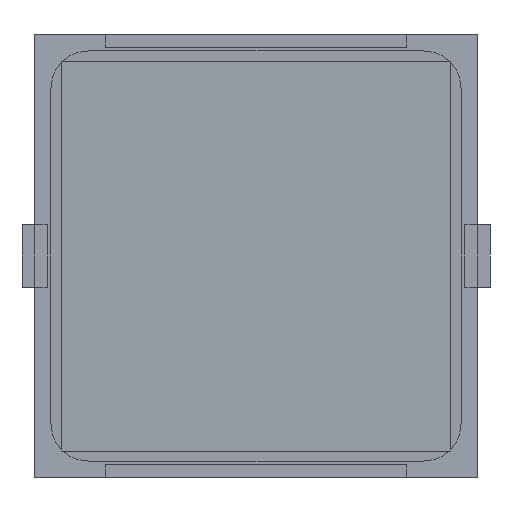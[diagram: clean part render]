
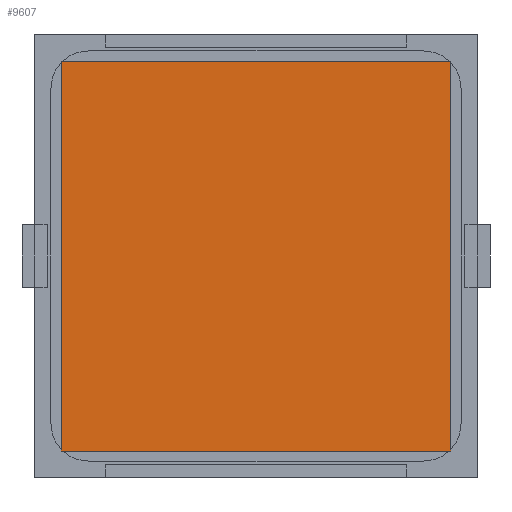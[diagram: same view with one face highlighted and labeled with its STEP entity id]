
A CAD part, front view. The second image highlights one B-rep face of the part: STEP entity #9607.
In plain terms, the highlighted planar face has unit normal (0, -1, 0).
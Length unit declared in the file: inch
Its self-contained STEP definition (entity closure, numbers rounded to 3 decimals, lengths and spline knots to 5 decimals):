
#228 = DIRECTION ( 'NONE',  ( 0., 0., 1. ) ) ;
#1280 = VECTOR ( 'NONE', #228, 39.37008 ) ;
#1312 = LINE ( 'NONE', #9830, #1280 ) ;
#1913 = EDGE_CURVE ( 'NONE', #5322, #5244, #4423, .T. ) ;
#2150 = DIRECTION ( 'NONE',  ( 0., 0., -1. ) ) ;
#2782 = EDGE_CURVE ( 'NONE', #7225, #5322, #10081, .T. ) ;
#2868 = PLANE ( 'NONE',  #4503 ) ;
#2983 = ORIENTED_EDGE ( 'NONE', *, *, #2782, .F. ) ;
#4121 = DIRECTION ( 'NONE',  ( 0., 0., 1. ) ) ;
#4423 = LINE ( 'NONE', #13833, #11424 ) ;
#4503 = AXIS2_PLACEMENT_3D ( 'NONE', #12402, #6026, #4121 ) ;
#4952 = DIRECTION ( 'NONE',  ( 1., 0., 0. ) ) ;
#5244 = VERTEX_POINT ( 'NONE', #12345 ) ;
#5322 = VERTEX_POINT ( 'NONE', #6469 ) ;
#6026 = DIRECTION ( 'NONE',  ( 0., 1., 0. ) ) ;
#6469 = CARTESIAN_POINT ( 'NONE',  ( 0.61024, -0.005, 0.61024 ) ) ;
#7111 = VERTEX_POINT ( 'NONE', #7727 ) ;
#7225 = VERTEX_POINT ( 'NONE', #7790 ) ;
#7285 = DIRECTION ( 'NONE',  ( -1., 0., 0. ) ) ;
#7727 = CARTESIAN_POINT ( 'NONE',  ( -0.61024, -0.005, -0.61024 ) ) ;
#7790 = CARTESIAN_POINT ( 'NONE',  ( -0.61024, -0.005, 0.61024 ) ) ;
#8095 = CARTESIAN_POINT ( 'NONE',  ( -0.61024, -0.005, 0.61024 ) ) ;
#8355 = VECTOR ( 'NONE', #7285, 39.37008 ) ;
#8357 = ORIENTED_EDGE ( 'NONE', *, *, #1913, .F. ) ;
#8366 = EDGE_CURVE ( 'NONE', #5244, #7111, #13714, .T. ) ;
#9346 = EDGE_LOOP ( 'NONE', ( #11320, #12271, #8357, #2983 ) ) ;
#9378 = FACE_OUTER_BOUND ( 'NONE', #9346, .T. ) ;
#9607 = ADVANCED_FACE ( 'NONE', ( #9378 ), #2868, .F. ) ;
#9644 = CARTESIAN_POINT ( 'NONE',  ( -0.61024, -0.005, -0.61024 ) ) ;
#9830 = CARTESIAN_POINT ( 'NONE',  ( -0.61024, -0.005, -0.61024 ) ) ;
#10081 = LINE ( 'NONE', #8095, #10929 ) ;
#10929 = VECTOR ( 'NONE', #4952, 39.37008 ) ;
#11197 = EDGE_CURVE ( 'NONE', #7111, #7225, #1312, .T. ) ;
#11320 = ORIENTED_EDGE ( 'NONE', *, *, #11197, .F. ) ;
#11424 = VECTOR ( 'NONE', #2150, 39.37008 ) ;
#12271 = ORIENTED_EDGE ( 'NONE', *, *, #8366, .F. ) ;
#12345 = CARTESIAN_POINT ( 'NONE',  ( 0.61024, -0.005, -0.61024 ) ) ;
#12402 = CARTESIAN_POINT ( 'NONE',  ( -0.61024, -0.005, 0.61024 ) ) ;
#13714 = LINE ( 'NONE', #9644, #8355 ) ;
#13833 = CARTESIAN_POINT ( 'NONE',  ( 0.61024, -0.005, -0.61024 ) ) ;
